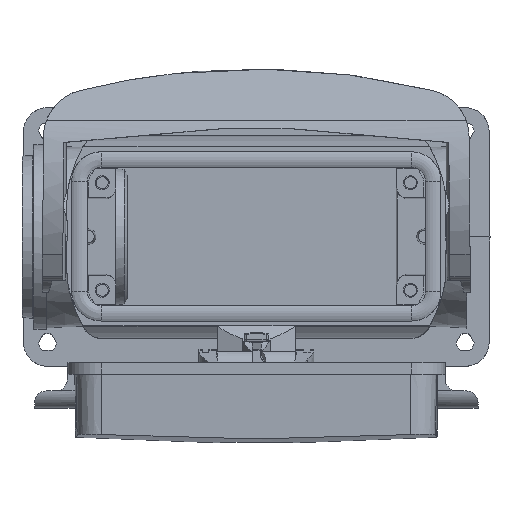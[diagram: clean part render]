
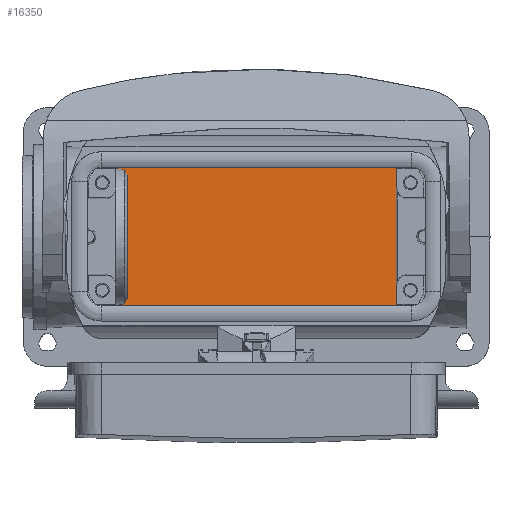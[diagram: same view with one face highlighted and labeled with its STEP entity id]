
A CAD part, top view. The second image highlights one B-rep face of the part: STEP entity #16350.
In plain terms, the highlighted planar face has unit normal (0, 0, 1).
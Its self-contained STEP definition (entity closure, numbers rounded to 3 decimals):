
#10225=PLANE('',#33693);
#12134=LINE('',#45291,#14527);
#12135=LINE('',#45294,#14528);
#12136=LINE('',#45296,#14529);
#12137=LINE('',#45298,#14530);
#14527=VECTOR('',#37423,1.);
#14528=VECTOR('',#37424,1.);
#14529=VECTOR('',#37425,1.);
#14530=VECTOR('',#37426,1.);
#16350=ADVANCED_FACE('',(#17211),#10225,.F.);
#17211=FACE_OUTER_BOUND('',#18093,.T.);
#18093=EDGE_LOOP('',(#21053,#21054,#21055,#21056));
#21053=ORIENTED_EDGE('',*,*,#28306,.F.);
#21054=ORIENTED_EDGE('',*,*,#28307,.T.);
#21055=ORIENTED_EDGE('',*,*,#28308,.F.);
#21056=ORIENTED_EDGE('',*,*,#28309,.T.);
#24517=VERTEX_POINT('',#45292);
#24518=VERTEX_POINT('',#45293);
#24519=VERTEX_POINT('',#45295);
#24520=VERTEX_POINT('',#45297);
#28306=EDGE_CURVE('',#24517,#24518,#12134,.T.);
#28307=EDGE_CURVE('',#24517,#24519,#12135,.T.);
#28308=EDGE_CURVE('',#24520,#24519,#12136,.T.);
#28309=EDGE_CURVE('',#24520,#24518,#12137,.T.);
#33693=AXIS2_PLACEMENT_3D('',#45299,#37427,#37428);
#37423=DIRECTION('',(0.,-1.,0.));
#37424=DIRECTION('',(-1.,0.,0.));
#37425=DIRECTION('',(0.,1.,0.));
#37426=DIRECTION('',(1.,0.,0.));
#37427=DIRECTION('',(0.,0.,-1.));
#37428=DIRECTION('',(-1.,0.,0.));
#45291=CARTESIAN_POINT('',(35.238,0.,-70.2));
#45292=CARTESIAN_POINT('',(35.238,17.425,-70.2));
#45293=CARTESIAN_POINT('',(35.238,-17.425,-70.2));
#45294=CARTESIAN_POINT('',(0.,17.425,-70.2));
#45295=CARTESIAN_POINT('',(-35.238,17.425,-70.2));
#45296=CARTESIAN_POINT('',(-35.238,-13.649,-70.2));
#45297=CARTESIAN_POINT('',(-35.238,-17.425,-70.2));
#45298=CARTESIAN_POINT('',(0.,-17.425,-70.2));
#45299=CARTESIAN_POINT('',(0.,0.,-70.2));
